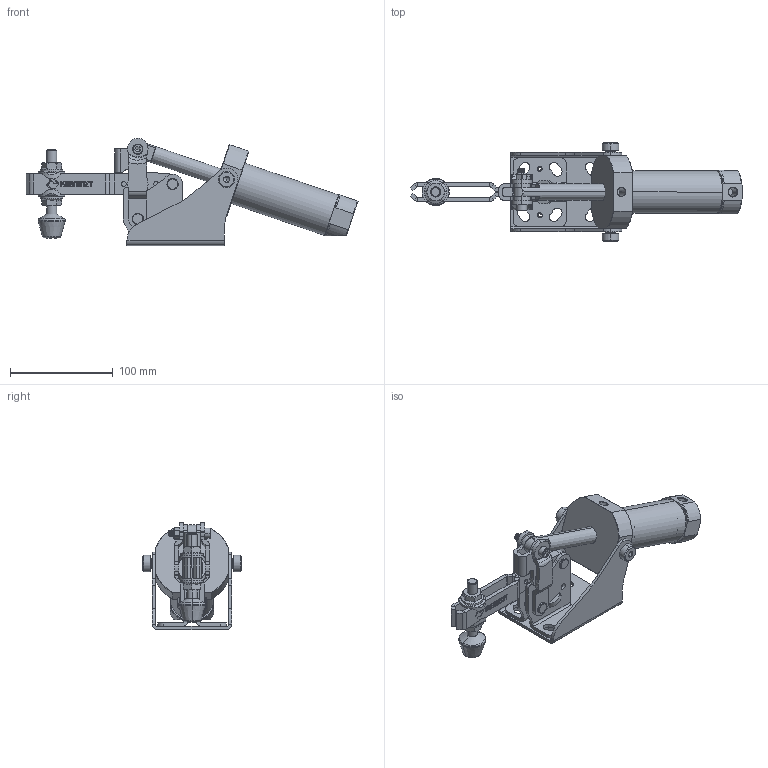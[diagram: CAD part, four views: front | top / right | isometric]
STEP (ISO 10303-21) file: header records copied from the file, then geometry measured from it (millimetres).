
FILE_DESCRIPTION(('STEP AP242'),'1');
FILE_NAME('611-4.stp','2023-11-30T13:50:47',('TraceParts'),('TraceParts S.A.'),'Spatial InterOp 3D',' ',' ');
FILE_SCHEMA(('AP242_MANAGED_MODEL_BASED_3D_ENGINEERING_MIM_LF {1 0 10303 442 1 1 4}'));
Length unit declared in the file: millimetre
Products named in the file (1): 611-4_1
Bounding box: 323.82 x 96 x 104.5 mm (x, y, z)
Volume: 322357.5 mm3; surface area: 145574 mm2
Topology: 10 solids, 19 shells, 2011 faces, 5330 edges, 3385 vertices
Faces by surface type: cylinder 889, plane 780, cone 148, torus 143, bspline 39, sphere 12
Entity records: 85432 total; most frequent: CARTESIAN_POINT 30195, ORIENTED_EDGE 10604, DIRECTION 10070, EDGE_CURVE 5302, AXIS2_PLACEMENT_3D 3868, VERTEX_POINT 3385, LINE 2334, VECTOR 2334
